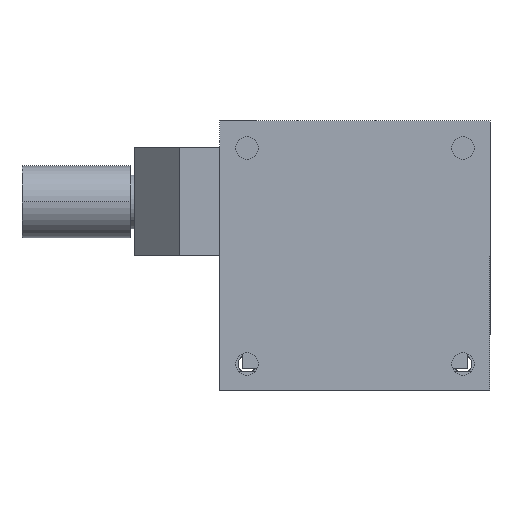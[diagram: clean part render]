
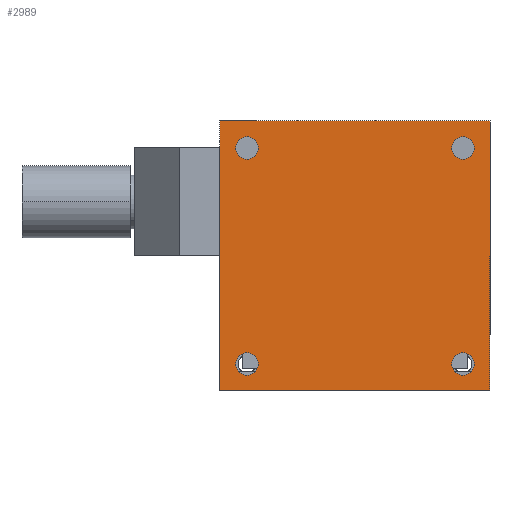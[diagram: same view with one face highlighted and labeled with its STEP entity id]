
A CAD part, front view. The second image highlights one B-rep face of the part: STEP entity #2989.
In plain terms, the highlighted planar face has unit normal (0, -1, 0).
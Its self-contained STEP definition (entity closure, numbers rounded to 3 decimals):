
#94 = EDGE_CURVE ( 'NONE', #1202, #2254, #2479, .T. ) ;
#142 = CARTESIAN_POINT ( 'NONE',  ( -12., -3., 12. ) ) ;
#171 = DIRECTION ( 'NONE',  ( 0., 1., 0. ) ) ;
#199 = DIRECTION ( 'NONE',  ( 0., 0., 1. ) ) ;
#218 = CARTESIAN_POINT ( 'NONE',  ( 12., -3., -12. ) ) ;
#222 = ORIENTED_EDGE ( 'NONE', *, *, #2747, .T. ) ;
#244 = LINE ( 'NONE', #1246, #1907 ) ;
#375 = CARTESIAN_POINT ( 'NONE',  ( -15., -3., 15. ) ) ;
#384 = AXIS2_PLACEMENT_3D ( 'NONE', #1172, #1517, #1835 ) ;
#395 = CARTESIAN_POINT ( 'NONE',  ( -12., -3., -12. ) ) ;
#413 = DIRECTION ( 'NONE',  ( 0., 1., 0. ) ) ;
#506 = CIRCLE ( 'NONE', #1698, 1.25 ) ;
#574 = AXIS2_PLACEMENT_3D ( 'NONE', #1133, #1897, #3175 ) ;
#632 = DIRECTION ( 'NONE',  ( 0., 1., 0. ) ) ;
#650 = AXIS2_PLACEMENT_3D ( 'NONE', #4080, #2516, #3483 ) ;
#696 = CARTESIAN_POINT ( 'NONE',  ( -12., -3., -13.25 ) ) ;
#713 = EDGE_LOOP ( 'NONE', ( #3903, #3434 ) ) ;
#721 = FACE_BOUND ( 'NONE', #3015, .T. ) ;
#813 = EDGE_LOOP ( 'NONE', ( #3587, #1999, #4116, #2513 ) ) ;
#832 = ORIENTED_EDGE ( 'NONE', *, *, #3511, .T. ) ;
#857 = VERTEX_POINT ( 'NONE', #1725 ) ;
#858 = FACE_BOUND ( 'NONE', #713, .T. ) ;
#874 = ORIENTED_EDGE ( 'NONE', *, *, #94, .T. ) ;
#912 = DIRECTION ( 'NONE',  ( 0., 0., 1. ) ) ;
#1001 = VECTOR ( 'NONE', #2944, 1000. ) ;
#1007 = CIRCLE ( 'NONE', #650, 1.25 ) ;
#1102 = DIRECTION ( 'NONE',  ( 0., 1., 0. ) ) ;
#1115 = CARTESIAN_POINT ( 'NONE',  ( 12., -3., 10.75 ) ) ;
#1133 = CARTESIAN_POINT ( 'NONE',  ( -12., -3., -12. ) ) ;
#1172 = CARTESIAN_POINT ( 'NONE',  ( -15., -3., 15. ) ) ;
#1202 = VERTEX_POINT ( 'NONE', #1367 ) ;
#1205 = AXIS2_PLACEMENT_3D ( 'NONE', #1794, #4002, #2456 ) ;
#1246 = CARTESIAN_POINT ( 'NONE',  ( -15., -3., -15. ) ) ;
#1343 = EDGE_LOOP ( 'NONE', ( #222, #2628 ) ) ;
#1367 = CARTESIAN_POINT ( 'NONE',  ( 12., -3., -13.25 ) ) ;
#1373 = EDGE_CURVE ( 'NONE', #3972, #857, #2856, .T. ) ;
#1382 = CARTESIAN_POINT ( 'NONE',  ( -12., -3., 13.25 ) ) ;
#1435 = DIRECTION ( 'NONE',  ( 0., 0., 1. ) ) ;
#1458 = CIRCLE ( 'NONE', #1205, 1.25 ) ;
#1465 = CARTESIAN_POINT ( 'NONE',  ( 12., -3., 12. ) ) ;
#1477 = VERTEX_POINT ( 'NONE', #2155 ) ;
#1517 = DIRECTION ( 'NONE',  ( 0., 1., 0. ) ) ;
#1666 = EDGE_CURVE ( 'NONE', #2254, #1202, #506, .T. ) ;
#1698 = AXIS2_PLACEMENT_3D ( 'NONE', #1929, #632, #912 ) ;
#1721 = EDGE_CURVE ( 'NONE', #2458, #1723, #3697, .T. ) ;
#1723 = VERTEX_POINT ( 'NONE', #2844 ) ;
#1725 = CARTESIAN_POINT ( 'NONE',  ( 12., -3., 13.25 ) ) ;
#1729 = CARTESIAN_POINT ( 'NONE',  ( -15., -3., 15. ) ) ;
#1794 = CARTESIAN_POINT ( 'NONE',  ( -12., -3., 12. ) ) ;
#1828 = CIRCLE ( 'NONE', #574, 1.25 ) ;
#1835 = DIRECTION ( 'NONE',  ( 0., 0., 1. ) ) ;
#1897 = DIRECTION ( 'NONE',  ( 0., 1., 0. ) ) ;
#1899 = CARTESIAN_POINT ( 'NONE',  ( 15., -3., -15. ) ) ;
#1907 = VECTOR ( 'NONE', #3164, 1000. ) ;
#1929 = CARTESIAN_POINT ( 'NONE',  ( 12., -3., -12. ) ) ;
#1960 = DIRECTION ( 'NONE',  ( -1., 0., 0. ) ) ;
#1999 = ORIENTED_EDGE ( 'NONE', *, *, #2441, .F. ) ;
#2034 = DIRECTION ( 'NONE',  ( 0., 1., 0. ) ) ;
#2064 = DIRECTION ( 'NONE',  ( 0., 0., 1. ) ) ;
#2155 = CARTESIAN_POINT ( 'NONE',  ( -12., -3., 10.75 ) ) ;
#2254 = VERTEX_POINT ( 'NONE', #4094 ) ;
#2263 = AXIS2_PLACEMENT_3D ( 'NONE', #218, #2034, #199 ) ;
#2333 = EDGE_CURVE ( 'NONE', #2527, #3328, #3668, .T. ) ;
#2389 = ORIENTED_EDGE ( 'NONE', *, *, #1666, .T. ) ;
#2393 = AXIS2_PLACEMENT_3D ( 'NONE', #395, #413, #2946 ) ;
#2441 = EDGE_CURVE ( 'NONE', #1723, #3783, #2902, .T. ) ;
#2456 = DIRECTION ( 'NONE',  ( 0., 0., 1. ) ) ;
#2458 = VERTEX_POINT ( 'NONE', #3573 ) ;
#2479 = CIRCLE ( 'NONE', #2263, 1.25 ) ;
#2513 = ORIENTED_EDGE ( 'NONE', *, *, #3262, .F. ) ;
#2516 = DIRECTION ( 'NONE',  ( 0., 1., 0. ) ) ;
#2519 = FACE_BOUND ( 'NONE', #3793, .T. ) ;
#2527 = VERTEX_POINT ( 'NONE', #3378 ) ;
#2628 = ORIENTED_EDGE ( 'NONE', *, *, #1373, .T. ) ;
#2685 = VECTOR ( 'NONE', #3160, 1000. ) ;
#2747 = EDGE_CURVE ( 'NONE', #857, #3972, #1007, .T. ) ;
#2764 = PLANE ( 'NONE',  #384 ) ;
#2844 = CARTESIAN_POINT ( 'NONE',  ( 15., -3., -15. ) ) ;
#2856 = CIRCLE ( 'NONE', #4062, 1.25 ) ;
#2902 = LINE ( 'NONE', #3597, #3362 ) ;
#2938 = CARTESIAN_POINT ( 'NONE',  ( -15., -3., -15. ) ) ;
#2944 = DIRECTION ( 'NONE',  ( 1., 0., 0. ) ) ;
#2946 = DIRECTION ( 'NONE',  ( 0., 0., 1. ) ) ;
#2989 = ADVANCED_FACE ( 'NONE', ( #721, #2519, #858, #4054, #3163 ), #2764, .F. ) ;
#3015 = EDGE_LOOP ( 'NONE', ( #832, #3259 ) ) ;
#3074 = EDGE_CURVE ( 'NONE', #3328, #2527, #1828, .T. ) ;
#3159 = LINE ( 'NONE', #375, #1001 ) ;
#3160 = DIRECTION ( 'NONE',  ( 0., 0., -1. ) ) ;
#3163 = FACE_OUTER_BOUND ( 'NONE', #813, .T. ) ;
#3164 = DIRECTION ( 'NONE',  ( 0., 0., 1. ) ) ;
#3175 = DIRECTION ( 'NONE',  ( 0., 0., 1. ) ) ;
#3259 = ORIENTED_EDGE ( 'NONE', *, *, #3451, .T. ) ;
#3262 = EDGE_CURVE ( 'NONE', #3918, #2458, #3159, .T. ) ;
#3328 = VERTEX_POINT ( 'NONE', #696 ) ;
#3362 = VECTOR ( 'NONE', #1960, 1000. ) ;
#3378 = CARTESIAN_POINT ( 'NONE',  ( -12., -3., -10.75 ) ) ;
#3434 = ORIENTED_EDGE ( 'NONE', *, *, #3074, .T. ) ;
#3451 = EDGE_CURVE ( 'NONE', #1477, #4007, #3656, .T. ) ;
#3483 = DIRECTION ( 'NONE',  ( 0., 0., 1. ) ) ;
#3499 = AXIS2_PLACEMENT_3D ( 'NONE', #142, #1102, #1435 ) ;
#3511 = EDGE_CURVE ( 'NONE', #4007, #1477, #1458, .T. ) ;
#3573 = CARTESIAN_POINT ( 'NONE',  ( 15., -3., 15. ) ) ;
#3587 = ORIENTED_EDGE ( 'NONE', *, *, #3669, .F. ) ;
#3597 = CARTESIAN_POINT ( 'NONE',  ( -15., -3., -15. ) ) ;
#3656 = CIRCLE ( 'NONE', #3499, 1.25 ) ;
#3668 = CIRCLE ( 'NONE', #2393, 1.25 ) ;
#3669 = EDGE_CURVE ( 'NONE', #3783, #3918, #244, .T. ) ;
#3697 = LINE ( 'NONE', #1899, #2685 ) ;
#3783 = VERTEX_POINT ( 'NONE', #2938 ) ;
#3793 = EDGE_LOOP ( 'NONE', ( #2389, #874 ) ) ;
#3903 = ORIENTED_EDGE ( 'NONE', *, *, #2333, .T. ) ;
#3918 = VERTEX_POINT ( 'NONE', #1729 ) ;
#3972 = VERTEX_POINT ( 'NONE', #1115 ) ;
#4002 = DIRECTION ( 'NONE',  ( 0., 1., 0. ) ) ;
#4007 = VERTEX_POINT ( 'NONE', #1382 ) ;
#4054 = FACE_BOUND ( 'NONE', #1343, .T. ) ;
#4062 = AXIS2_PLACEMENT_3D ( 'NONE', #1465, #171, #2064 ) ;
#4080 = CARTESIAN_POINT ( 'NONE',  ( 12., -3., 12. ) ) ;
#4094 = CARTESIAN_POINT ( 'NONE',  ( 12., -3., -10.75 ) ) ;
#4116 = ORIENTED_EDGE ( 'NONE', *, *, #1721, .F. ) ;
